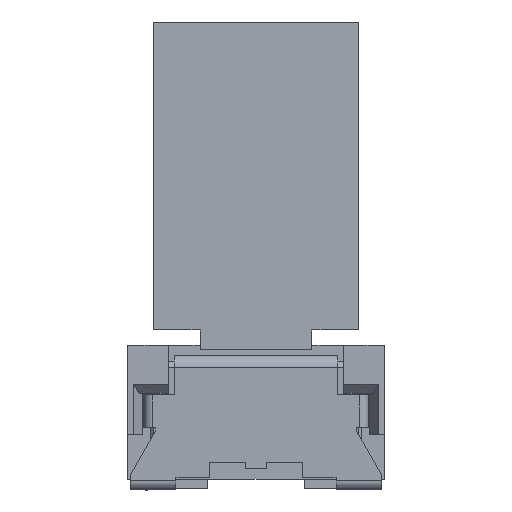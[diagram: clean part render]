
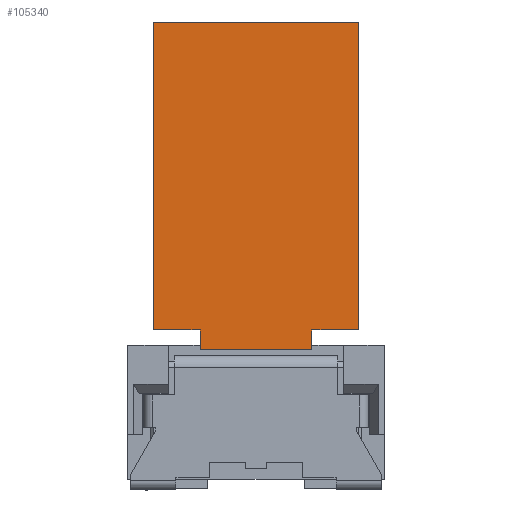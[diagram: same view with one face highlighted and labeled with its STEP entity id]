
A CAD part, left-side view. The second image highlights one B-rep face of the part: STEP entity #105340.
In plain terms, the highlighted planar face has unit normal (-1, 0, 0).
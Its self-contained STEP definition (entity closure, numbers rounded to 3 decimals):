
#41710=CARTESIAN_POINT('',(-11.054,29.1,13.848));
#41720=DIRECTION('',(0.,0.,1.));
#41730=VECTOR('',#41720,1.);
#41740=LINE('',#41710,#41730);
#41750=CARTESIAN_POINT('',(-11.054,29.1,12.9));
#41760=VERTEX_POINT('',#41750);
#41770=CARTESIAN_POINT('',(-11.054,29.1,13.55));
#41780=VERTEX_POINT('',#41770);
#41790=EDGE_CURVE('',#41760,#41780,#41740,.T.);
#42180=CARTESIAN_POINT('',(-11.054,30.22,12.9));
#42190=DIRECTION('',(0.,-1.,0.));
#42200=VECTOR('',#42190,1.);
#42210=LINE('',#42180,#42200);
#42220=CARTESIAN_POINT('',(-11.054,25.4,12.9));
#42230=VERTEX_POINT('',#42220);
#42240=EDGE_CURVE('',#41760,#42230,#42210,.T.);
#104790=CARTESIAN_POINT('',(-11.054,23.85,23.75));
#104800=DIRECTION('',(-1.,0.,0.));
#104810=DIRECTION('',(0.,0.,1.));
#104820=AXIS2_PLACEMENT_3D('',#104790,#104800,#104810);
#104830=PLANE('',#104820);
#104840=ORIENTED_EDGE('',*,*,#42240,.T.);
#104850=ORIENTED_EDGE('',*,*,#41790,.F.);
#104860=CARTESIAN_POINT('',(-11.054,30.22,13.55));
#104870=DIRECTION('',(0.,1.,0.));
#104880=VECTOR('',#104870,1.);
#104890=LINE('',#104860,#104880);
#104900=CARTESIAN_POINT('',(-11.054,30.65,13.55));
#104910=VERTEX_POINT('',#104900);
#104920=EDGE_CURVE('',#41780,#104910,#104890,.T.);
#104930=ORIENTED_EDGE('',*,*,#104920,.F.);
#104940=CARTESIAN_POINT('',(-11.054,30.65,11.165));
#104950=DIRECTION('',(0.,0.,1.));
#104960=VECTOR('',#104950,1.);
#104970=LINE('',#104940,#104960);
#104980=CARTESIAN_POINT('',(-11.054,30.65,23.75));
#104990=VERTEX_POINT('',#104980);
#105000=EDGE_CURVE('',#104910,#104990,#104970,.T.);
#105010=ORIENTED_EDGE('',*,*,#105000,.F.);
#105020=CARTESIAN_POINT('',(-11.054,30.22,23.75));
#105030=DIRECTION('',(0.,-1.,0.));
#105040=VECTOR('',#105030,1.);
#105050=LINE('',#105020,#105040);
#105060=CARTESIAN_POINT('',(-11.054,23.85,23.75));
#105070=VERTEX_POINT('',#105060);
#105080=EDGE_CURVE('',#104990,#105070,#105050,.T.);
#105090=ORIENTED_EDGE('',*,*,#105080,.F.);
#105100=CARTESIAN_POINT('',(-11.054,23.85,11.165));
#105110=DIRECTION('',(0.,0.,-1.));
#105120=VECTOR('',#105110,1.);
#105130=LINE('',#105100,#105120);
#105140=CARTESIAN_POINT('',(-11.054,23.85,13.55));
#105150=VERTEX_POINT('',#105140);
#105160=EDGE_CURVE('',#105070,#105150,#105130,.T.);
#105170=ORIENTED_EDGE('',*,*,#105160,.F.);
#105180=CARTESIAN_POINT('',(-11.054,30.22,13.55));
#105190=DIRECTION('',(0.,1.,0.));
#105200=VECTOR('',#105190,1.);
#105210=LINE('',#105180,#105200);
#105220=CARTESIAN_POINT('',(-11.054,25.4,13.55));
#105230=VERTEX_POINT('',#105220);
#105240=EDGE_CURVE('',#105150,#105230,#105210,.T.);
#105250=ORIENTED_EDGE('',*,*,#105240,.F.);
#105260=CARTESIAN_POINT('',(-11.054,25.4,13.848));
#105270=DIRECTION('',(0.,0.,1.));
#105280=VECTOR('',#105270,1.);
#105290=LINE('',#105260,#105280);
#105300=EDGE_CURVE('',#42230,#105230,#105290,.T.);
#105310=ORIENTED_EDGE('',*,*,#105300,.T.);
#105320=EDGE_LOOP('',(#105310,#105250,#105170,#105090,#105010,#104930,
#104850,#104840));
#105330=FACE_OUTER_BOUND('',#105320,.T.);
#105340=ADVANCED_FACE('',(#105330),#104830,.T.);
